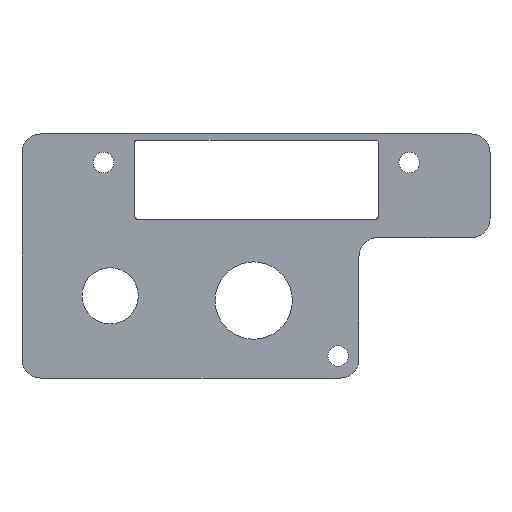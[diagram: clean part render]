
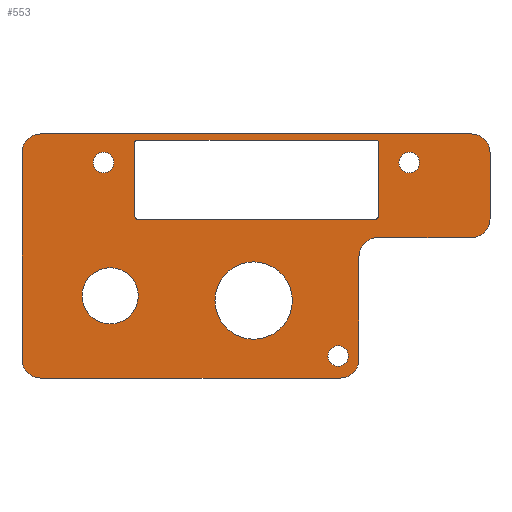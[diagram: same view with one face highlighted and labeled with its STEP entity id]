
A CAD part, front view. The second image highlights one B-rep face of the part: STEP entity #553.
In plain terms, the highlighted planar face has unit normal (0, -1, 0).
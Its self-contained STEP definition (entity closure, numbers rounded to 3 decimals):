
#36=FACE_BOUND('',#114,.T.);
#37=FACE_BOUND('',#115,.T.);
#38=FACE_BOUND('',#116,.T.);
#39=FACE_BOUND('',#117,.T.);
#40=FACE_BOUND('',#118,.T.);
#41=FACE_BOUND('',#119,.T.);
#52=PLANE('',#625);
#79=FACE_OUTER_BOUND('',#113,.T.);
#113=EDGE_LOOP('',(#494,#495,#496,#497,#498,#499,#500,#501,#502,#503,#504,
#505));
#114=EDGE_LOOP('',(#506));
#115=EDGE_LOOP('',(#507,#508,#509,#510,#511,#512,#513,#514));
#116=EDGE_LOOP('',(#515));
#117=EDGE_LOOP('',(#516));
#118=EDGE_LOOP('',(#517));
#119=EDGE_LOOP('',(#518));
#137=LINE('',#867,#183);
#140=LINE('',#875,#186);
#143=LINE('',#880,#189);
#145=LINE('',#887,#191);
#148=LINE('',#895,#194);
#152=LINE('',#904,#198);
#155=LINE('',#912,#201);
#158=LINE('',#920,#204);
#165=LINE('',#942,#211);
#167=LINE('',#948,#213);
#183=VECTOR('',#696,10.);
#186=VECTOR('',#705,10.);
#189=VECTOR('',#710,10.);
#191=VECTOR('',#718,10.);
#194=VECTOR('',#727,10.);
#198=VECTOR('',#737,10.);
#201=VECTOR('',#746,10.);
#204=VECTOR('',#755,10.);
#211=VECTOR('',#780,10.);
#213=VECTOR('',#788,10.);
#230=CIRCLE('',#589,6.2);
#231=CIRCLE('',#591,4.5);
#232=CIRCLE('',#593,0.3);
#233=CIRCLE('',#596,0.5);
#234=CIRCLE('',#600,0.5);
#235=CIRCLE('',#603,0.3);
#236=CIRCLE('',#606,3.);
#237=CIRCLE('',#609,3.);
#238=CIRCLE('',#612,3.);
#239=CIRCLE('',#615,1.65);
#240=CIRCLE('',#617,1.65);
#241=CIRCLE('',#619,1.65);
#242=CIRCLE('',#621,3.);
#243=CIRCLE('',#624,3.);
#244=CIRCLE('',#626,3.);
#271=VERTEX_POINT('',#852);
#272=VERTEX_POINT('',#856);
#273=VERTEX_POINT('',#860);
#274=VERTEX_POINT('',#861);
#275=VERTEX_POINT('',#866);
#276=VERTEX_POINT('',#870);
#277=VERTEX_POINT('',#874);
#278=VERTEX_POINT('',#878);
#279=VERTEX_POINT('',#882);
#280=VERTEX_POINT('',#886);
#281=VERTEX_POINT('',#892);
#282=VERTEX_POINT('',#894);
#283=VERTEX_POINT('',#898);
#284=VERTEX_POINT('',#902);
#285=VERTEX_POINT('',#906);
#286=VERTEX_POINT('',#910);
#287=VERTEX_POINT('',#914);
#288=VERTEX_POINT('',#918);
#289=VERTEX_POINT('',#922);
#290=VERTEX_POINT('',#926);
#291=VERTEX_POINT('',#930);
#292=VERTEX_POINT('',#934);
#293=VERTEX_POINT('',#936);
#294=VERTEX_POINT('',#940);
#295=VERTEX_POINT('',#944);
#324=EDGE_CURVE('',#271,#271,#230,.F.);
#326=EDGE_CURVE('',#272,#272,#231,.T.);
#327=EDGE_CURVE('',#273,#274,#232,.T.);
#330=EDGE_CURVE('',#274,#275,#137,.F.);
#332=EDGE_CURVE('',#275,#276,#233,.T.);
#334=EDGE_CURVE('',#277,#276,#140,.T.);
#337=EDGE_CURVE('',#273,#278,#143,.T.);
#338=EDGE_CURVE('',#277,#279,#234,.T.);
#340=EDGE_CURVE('',#280,#279,#145,.T.);
#342=EDGE_CURVE('',#280,#278,#235,.T.);
#344=EDGE_CURVE('',#282,#281,#148,.T.);
#347=EDGE_CURVE('',#281,#283,#236,.T.);
#349=EDGE_CURVE('',#284,#283,#152,.T.);
#351=EDGE_CURVE('',#285,#284,#237,.T.);
#353=EDGE_CURVE('',#286,#285,#155,.T.);
#355=EDGE_CURVE('',#287,#286,#238,.T.);
#357=EDGE_CURVE('',#287,#288,#158,.T.);
#359=EDGE_CURVE('',#289,#289,#239,.T.);
#361=EDGE_CURVE('',#290,#290,#240,.T.);
#363=EDGE_CURVE('',#291,#291,#241,.T.);
#365=EDGE_CURVE('',#292,#293,#242,.T.);
#368=EDGE_CURVE('',#292,#294,#165,.T.);
#370=EDGE_CURVE('',#295,#288,#243,.T.);
#371=EDGE_CURVE('',#295,#293,#167,.T.);
#372=EDGE_CURVE('',#282,#294,#244,.T.);
#494=ORIENTED_EDGE('',*,*,#355,.F.);
#495=ORIENTED_EDGE('',*,*,#357,.T.);
#496=ORIENTED_EDGE('',*,*,#370,.F.);
#497=ORIENTED_EDGE('',*,*,#371,.T.);
#498=ORIENTED_EDGE('',*,*,#365,.F.);
#499=ORIENTED_EDGE('',*,*,#368,.T.);
#500=ORIENTED_EDGE('',*,*,#372,.F.);
#501=ORIENTED_EDGE('',*,*,#344,.T.);
#502=ORIENTED_EDGE('',*,*,#347,.T.);
#503=ORIENTED_EDGE('',*,*,#349,.F.);
#504=ORIENTED_EDGE('',*,*,#351,.F.);
#505=ORIENTED_EDGE('',*,*,#353,.F.);
#506=ORIENTED_EDGE('',*,*,#326,.T.);
#507=ORIENTED_EDGE('',*,*,#337,.T.);
#508=ORIENTED_EDGE('',*,*,#342,.F.);
#509=ORIENTED_EDGE('',*,*,#340,.T.);
#510=ORIENTED_EDGE('',*,*,#338,.F.);
#511=ORIENTED_EDGE('',*,*,#334,.T.);
#512=ORIENTED_EDGE('',*,*,#332,.F.);
#513=ORIENTED_EDGE('',*,*,#330,.F.);
#514=ORIENTED_EDGE('',*,*,#327,.F.);
#515=ORIENTED_EDGE('',*,*,#359,.T.);
#516=ORIENTED_EDGE('',*,*,#361,.T.);
#517=ORIENTED_EDGE('',*,*,#363,.T.);
#518=ORIENTED_EDGE('',*,*,#324,.F.);
#553=ADVANCED_FACE('',(#79,#36,#37,#38,#39,#40,#41),#52,.F.);
#589=AXIS2_PLACEMENT_3D('',#854,#681,#682);
#591=AXIS2_PLACEMENT_3D('',#858,#686,#687);
#593=AXIS2_PLACEMENT_3D('',#862,#690,#691);
#596=AXIS2_PLACEMENT_3D('',#871,#700,#701);
#600=AXIS2_PLACEMENT_3D('',#883,#713,#714);
#603=AXIS2_PLACEMENT_3D('',#890,#722,#723);
#606=AXIS2_PLACEMENT_3D('',#900,#732,#733);
#609=AXIS2_PLACEMENT_3D('',#908,#741,#742);
#612=AXIS2_PLACEMENT_3D('',#916,#750,#751);
#615=AXIS2_PLACEMENT_3D('',#924,#759,#760);
#617=AXIS2_PLACEMENT_3D('',#928,#764,#765);
#619=AXIS2_PLACEMENT_3D('',#932,#769,#770);
#621=AXIS2_PLACEMENT_3D('',#937,#774,#775);
#624=AXIS2_PLACEMENT_3D('',#946,#784,#785);
#625=AXIS2_PLACEMENT_3D('',#947,#786,#787);
#626=AXIS2_PLACEMENT_3D('',#949,#789,#790);
#681=DIRECTION('center_axis',(0.,1.,0.));
#682=DIRECTION('ref_axis',(-1.,0.,0.));
#686=DIRECTION('center_axis',(0.,1.,0.));
#687=DIRECTION('ref_axis',(-1.,0.,0.));
#690=DIRECTION('center_axis',(0.,-1.,0.));
#691=DIRECTION('ref_axis',(-0.707,0.,0.707));
#696=DIRECTION('',(0.,0.,1.));
#700=DIRECTION('center_axis',(0.,-1.,0.));
#701=DIRECTION('ref_axis',(-0.707,0.,-0.707));
#705=DIRECTION('',(-1.,0.,0.));
#710=DIRECTION('',(1.,0.,0.));
#713=DIRECTION('center_axis',(0.,-1.,0.));
#714=DIRECTION('ref_axis',(0.707,0.,-0.707));
#718=DIRECTION('',(0.,0.,-1.));
#722=DIRECTION('center_axis',(0.,-1.,0.));
#723=DIRECTION('ref_axis',(0.707,0.,0.707));
#727=DIRECTION('',(0.,0.,1.));
#732=DIRECTION('center_axis',(0.,-1.,0.));
#733=DIRECTION('ref_axis',(0.,0.,1.));
#737=DIRECTION('',(1.,0.,0.));
#741=DIRECTION('center_axis',(0.,1.,0.));
#742=DIRECTION('ref_axis',(-1.,0.,0.));
#746=DIRECTION('',(0.,0.,1.));
#750=DIRECTION('center_axis',(0.,1.,0.));
#751=DIRECTION('ref_axis',(-0.707,0.,-0.707));
#755=DIRECTION('',(1.,0.,0.));
#759=DIRECTION('center_axis',(0.,1.,0.));
#760=DIRECTION('ref_axis',(-1.,0.,0.));
#764=DIRECTION('center_axis',(0.,1.,0.));
#765=DIRECTION('ref_axis',(-1.,0.,0.));
#769=DIRECTION('center_axis',(0.,1.,0.));
#770=DIRECTION('ref_axis',(-1.,0.,0.));
#774=DIRECTION('center_axis',(0.,-1.,0.));
#775=DIRECTION('ref_axis',(-0.707,0.,0.707));
#780=DIRECTION('',(1.,0.,0.));
#784=DIRECTION('center_axis',(0.,1.,0.));
#785=DIRECTION('ref_axis',(0.707,0.,-0.707));
#786=DIRECTION('center_axis',(0.,1.,0.));
#787=DIRECTION('ref_axis',(-1.,0.,0.));
#788=DIRECTION('',(0.,0.,1.));
#789=DIRECTION('center_axis',(0.,1.,0.));
#790=DIRECTION('ref_axis',(0.707,0.,-0.707));
#852=CARTESIAN_POINT('',(144.5,11.7,-12.5));
#854=CARTESIAN_POINT('Origin',(138.3,11.7,-12.5));
#856=CARTESIAN_POINT('',(119.805,11.7,-11.746));
#858=CARTESIAN_POINT('Origin',(115.305,11.7,-11.746));
#860=CARTESIAN_POINT('',(119.566,11.7,13.205));
#861=CARTESIAN_POINT('',(119.266,11.7,12.905));
#862=CARTESIAN_POINT('Origin',(119.566,11.7,12.905));
#866=CARTESIAN_POINT('',(119.266,11.7,1.026));
#867=CARTESIAN_POINT('',(119.266,11.7,4.423));
#870=CARTESIAN_POINT('',(119.766,11.7,0.526));
#871=CARTESIAN_POINT('Origin',(119.766,11.7,1.026));
#874=CARTESIAN_POINT('',(157.788,11.7,0.526));
#875=CARTESIAN_POINT('',(122.77,11.7,0.526));
#878=CARTESIAN_POINT('',(157.988,11.7,13.205));
#880=CARTESIAN_POINT('',(168.788,11.7,13.205));
#882=CARTESIAN_POINT('',(158.288,11.7,1.026));
#883=CARTESIAN_POINT('Origin',(157.788,11.7,1.026));
#886=CARTESIAN_POINT('',(158.288,11.7,12.905));
#887=CARTESIAN_POINT('',(158.288,11.7,13.205));
#890=CARTESIAN_POINT('Origin',(157.988,11.7,12.905));
#892=CARTESIAN_POINT('',(176.174,11.7,11.205));
#894=CARTESIAN_POINT('',(176.174,11.7,0.576));
#895=CARTESIAN_POINT('',(176.174,11.7,14.205));
#898=CARTESIAN_POINT('',(173.174,11.7,14.205));
#900=CARTESIAN_POINT('Origin',(173.174,11.7,11.205));
#902=CARTESIAN_POINT('',(104.173,11.7,14.205));
#904=CARTESIAN_POINT('',(104.173,11.7,14.205));
#906=CARTESIAN_POINT('',(101.173,11.7,11.205));
#908=CARTESIAN_POINT('Origin',(104.173,11.7,11.205));
#910=CARTESIAN_POINT('',(101.173,11.7,-21.924));
#912=CARTESIAN_POINT('',(101.173,11.7,-24.924));
#914=CARTESIAN_POINT('',(104.173,11.7,-24.924));
#916=CARTESIAN_POINT('Origin',(104.173,11.7,-21.924));
#918=CARTESIAN_POINT('',(152.173,11.7,-24.924));
#920=CARTESIAN_POINT('',(155.173,11.7,-24.924));
#922=CARTESIAN_POINT('',(115.881,11.7,9.606));
#924=CARTESIAN_POINT('Origin',(114.231,11.7,9.606));
#926=CARTESIAN_POINT('',(164.881,11.7,9.606));
#928=CARTESIAN_POINT('Origin',(163.231,11.7,9.606));
#930=CARTESIAN_POINT('',(153.496,11.7,-21.398));
#932=CARTESIAN_POINT('Origin',(151.846,11.7,-21.398));
#934=CARTESIAN_POINT('',(158.173,11.7,-2.424));
#936=CARTESIAN_POINT('',(155.173,11.7,-5.424));
#937=CARTESIAN_POINT('Origin',(158.173,11.7,-5.424));
#940=CARTESIAN_POINT('',(173.174,11.7,-2.424));
#942=CARTESIAN_POINT('',(176.174,11.7,-2.424));
#944=CARTESIAN_POINT('',(155.173,11.7,-21.924));
#946=CARTESIAN_POINT('Origin',(152.173,11.7,-21.924));
#947=CARTESIAN_POINT('Origin',(126.173,11.7,-5.359));
#948=CARTESIAN_POINT('',(155.173,11.7,0.076));
#949=CARTESIAN_POINT('Origin',(173.174,11.7,0.576));
